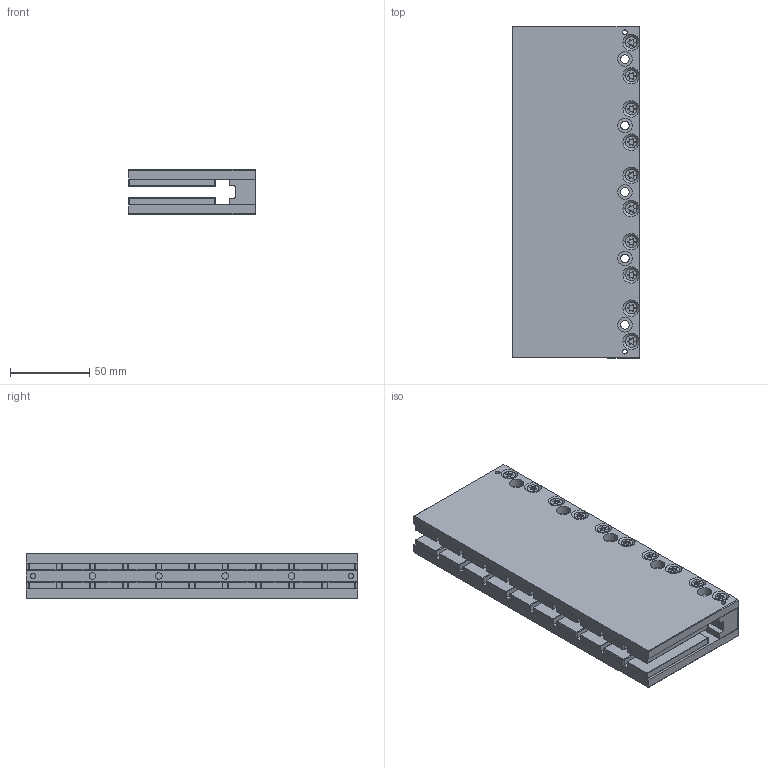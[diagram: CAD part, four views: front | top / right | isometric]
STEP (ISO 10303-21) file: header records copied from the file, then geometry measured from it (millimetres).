
FILE_DESCRIPTION (( 'STEP AP203' ), '1' );
FILE_NAME ('MY91-210 assembly 3D.STEP', '2022-10-28T07:10:44', ( '' ), ( '' ), 'SwSTEP 2.0', 'SolidWorks 2021', '' );
FILE_SCHEMA (( 'CONFIG_CONTROL_DESIGN' ));
Length unit declared in the file: millimetre
Products named in the file (1): MY91-210 assembly 3D
Bounding box: 80.2 x 209.92 x 28.4 mm (x, y, z)
Volume: 375243.8 mm3; surface area: 169843.7 mm2
Topology: 44 solids, 44 shells, 1532 faces, 3844 edges, 2396 vertices
Faces by surface type: cylinder 776, plane 456, torus 160, cone 140
Entity records: 46768 total; most frequent: DIRECTION 8658, CARTESIAN_POINT 8426, ORIENTED_EDGE 7688, EDGE_CURVE 3844, AXIS2_PLACEMENT_3D 3337, VERTEX_POINT 2396, VECTOR 1984, LINE 1984
